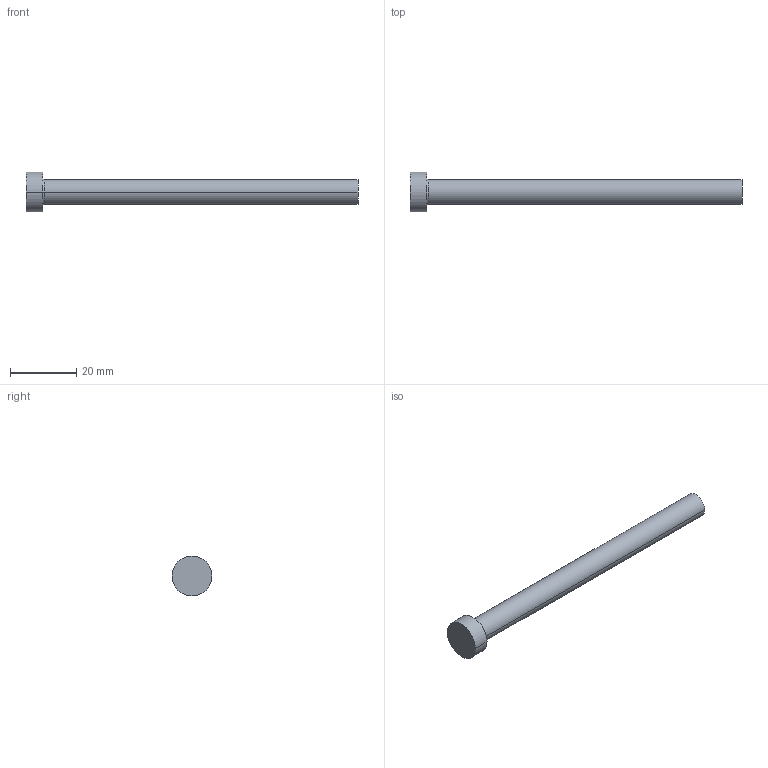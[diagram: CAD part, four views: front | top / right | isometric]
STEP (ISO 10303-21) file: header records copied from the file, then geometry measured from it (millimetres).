
FILE_DESCRIPTION (( 'STEP AP214' ), '1' );
FILE_NAME ('A-7,5x100.STEP', '2020-05-29T15:44:06', ( 'August' ), ( '' ), 'SwSTEP 2.0', 'SolidWorks 2018', '' );
FILE_SCHEMA (( 'AUTOMOTIVE_DESIGN' ));
Length unit declared in the file: millimetre
Products named in the file (1): A-7,5x100
Bounding box: 100 x 12 x 12 mm (x, y, z)
Volume: 4763.8 mm3; surface area: 2648.1 mm2
Topology: 1 solids, 1 shells, 9 faces, 16 edges, 10 vertices
Faces by surface type: cylinder 4, plane 3, torus 2
Entity records: 260 total; most frequent: DIRECTION 48, CARTESIAN_POINT 36, ORIENTED_EDGE 32, AXIS2_PLACEMENT_3D 22, EDGE_CURVE 16, CIRCLE 12, VERTEX_POINT 10, EDGE_LOOP 10
